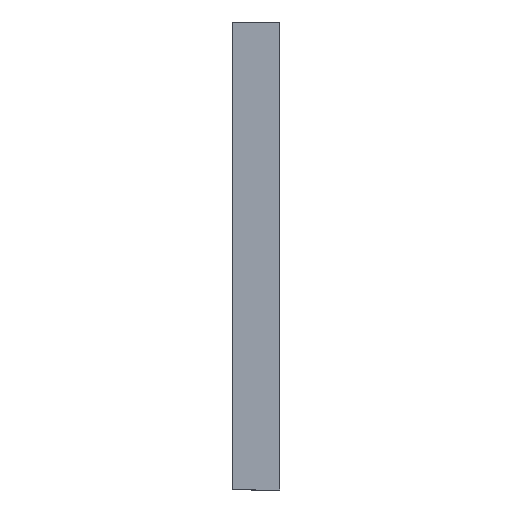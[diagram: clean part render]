
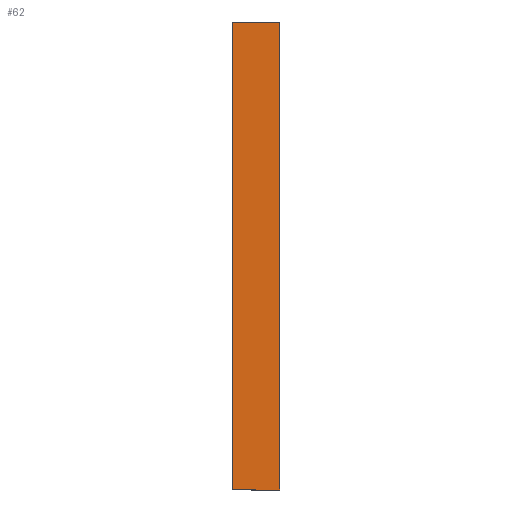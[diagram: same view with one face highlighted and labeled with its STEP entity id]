
A CAD part, left-side view. The second image highlights one B-rep face of the part: STEP entity #62.
In plain terms, the highlighted planar face has unit normal (-1, 0, 0) as drawn and (1, 0, 0) by its records, which use the part's own axes.
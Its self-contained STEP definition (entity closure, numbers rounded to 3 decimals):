
#10 = EDGE_CURVE ( 'NONE', #718, #543, #174, .T. ) ;
#34 = ORIENTED_EDGE ( 'NONE', *, *, #10, .T. ) ;
#49 = EDGE_LOOP ( 'NONE', ( #647, #781, #63, #34 ) ) ;
#54 = VERTEX_POINT ( 'NONE', #281 ) ;
#62 = ADVANCED_FACE ( 'NONE', ( #347 ), #348, .F. ) ;
#63 = ORIENTED_EDGE ( 'NONE', *, *, #288, .F. ) ;
#75 = VERTEX_POINT ( 'NONE', #440 ) ;
#146 = LINE ( 'NONE', #147, #148 ) ;
#147 = CARTESIAN_POINT ( 'NONE',  ( 2.5, 6.8, 33.5 ) ) ;
#148 = VECTOR ( 'NONE', #149, 1000. ) ;
#149 = DIRECTION ( 'NONE',  ( 0., 0., -1. ) ) ;
#174 = LINE ( 'NONE', #175, #176 ) ;
#175 = CARTESIAN_POINT ( 'NONE',  ( 2.5, 0., 33.5 ) ) ;
#176 = VECTOR ( 'NONE', #177, 1000. ) ;
#177 = DIRECTION ( 'NONE',  ( 0., 0., -1. ) ) ;
#197 = CARTESIAN_POINT ( 'NONE',  ( 2.5, 0., 33.5 ) ) ;
#281 = CARTESIAN_POINT ( 'NONE',  ( 2.5, 6.8, 33.5 ) ) ;
#288 = EDGE_CURVE ( 'NONE', #718, #54, #296, .T. ) ;
#296 = LINE ( 'NONE', #297, #298 ) ;
#297 = CARTESIAN_POINT ( 'NONE',  ( 2.5, 0., 33.5 ) ) ;
#298 = VECTOR ( 'NONE', #299, 1000. ) ;
#299 = DIRECTION ( 'NONE',  ( 0., 1., 0. ) ) ;
#330 = LINE ( 'NONE', #331, #332 ) ;
#331 = CARTESIAN_POINT ( 'NONE',  ( 2.5, 0., -33.5 ) ) ;
#332 = VECTOR ( 'NONE', #333, 1000. ) ;
#333 = DIRECTION ( 'NONE',  ( 0., 1., 0. ) ) ;
#347 = FACE_OUTER_BOUND ( 'NONE', #49, .T. ) ;
#348 = PLANE ( 'NONE',  #349 ) ;
#349 = AXIS2_PLACEMENT_3D ( 'NONE', #350, #351, #352 ) ;
#350 = CARTESIAN_POINT ( 'NONE',  ( 2.5, 0., 33.5 ) ) ;
#351 = DIRECTION ( 'NONE',  ( -1., 0., 0. ) ) ;
#352 = DIRECTION ( 'NONE',  ( 0., -1., 0. ) ) ;
#440 = CARTESIAN_POINT ( 'NONE',  ( 2.5, 6.8, -33.5 ) ) ;
#477 = CARTESIAN_POINT ( 'NONE',  ( 2.5, 0., -33.5 ) ) ;
#543 = VERTEX_POINT ( 'NONE', #477 ) ;
#647 = ORIENTED_EDGE ( 'NONE', *, *, #792, .T. ) ;
#718 = VERTEX_POINT ( 'NONE', #197 ) ;
#781 = ORIENTED_EDGE ( 'NONE', *, *, #808, .F. ) ;
#792 = EDGE_CURVE ( 'NONE', #543, #75, #330, .T. ) ;
#808 = EDGE_CURVE ( 'NONE', #54, #75, #146, .T. ) ;
